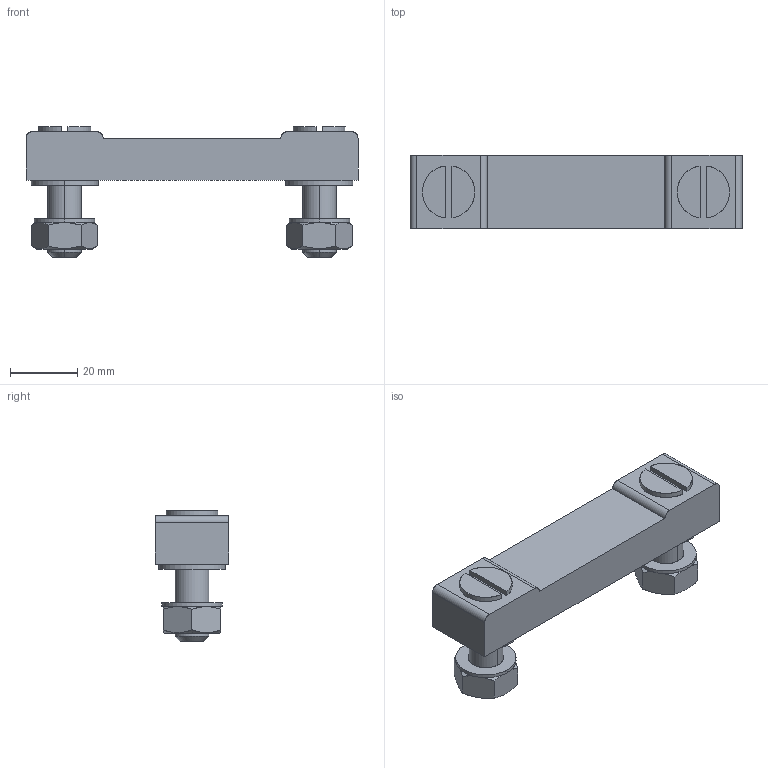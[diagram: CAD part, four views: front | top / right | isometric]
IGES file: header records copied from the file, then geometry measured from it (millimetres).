
Start section: SolidWorks IGES file using analytic representation for surfaces
Global section: file name: X:\11_SW2020-Inv2020\00_全2021-1129新製品まで\編集フォルダー\lt (仕様変更)\l\LT-76NC\lt-76nc.IGS; native system: SolidWorks 2020; preprocessor: SolidWorks 2020; author: ImaoCorp; date: 211129.160329; units: millimetre
Bounding box: 99 x 22 x 39 mm (x, y, z)
Surface area: 11765.4 mm2 (no closed solid volume)
Topology: 0 solids, 0 shells, 80 faces, 1540 edges, 1540 vertices
Faces by surface type: revolution 40, bspline 40
